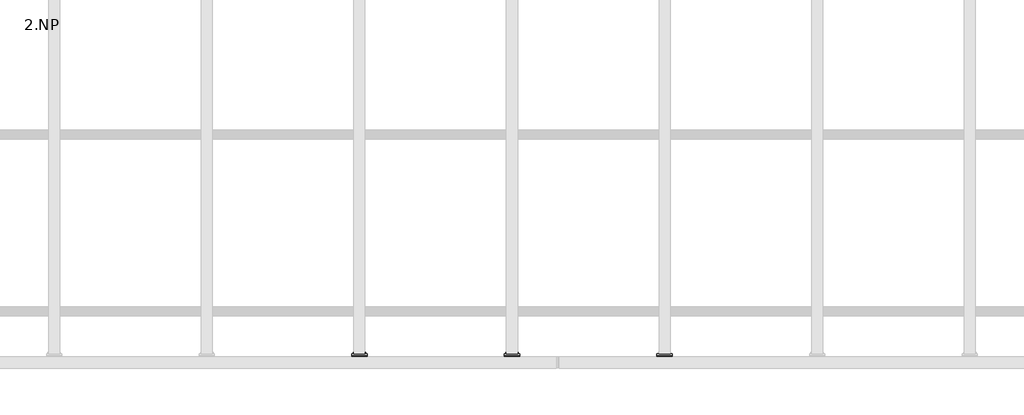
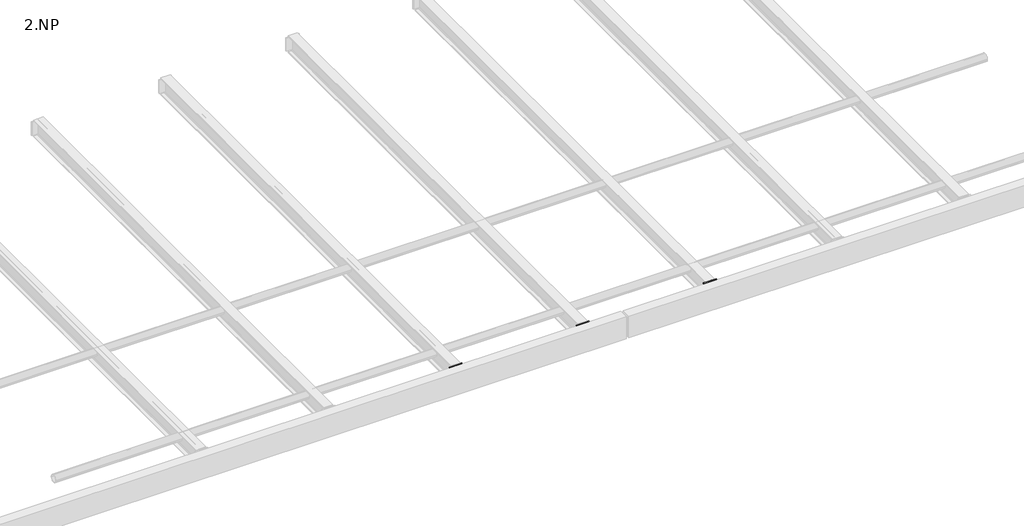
# One storey, part 5 of 18: 12 proxies.
"""IFC4 building model written with IfcOpenShell, lengths in millimetres."""

from ifc_helpers import new_model, si_unit, point, frame, frame_2d, origin, place, context, project, spatial, polyline, circle_curve, trimmed, segment, composite_curve, outline, extrude, element, save

model = new_model("IFC4")

# Units and contexts
model_context = context("Model", 3, world=origin())
ifc_project = project(units=[si_unit("LENGTHUNIT", "METRE", prefix="MILLI")], contexts=[model_context])

# Site, building, storey
site = spatial("IfcSite", under=ifc_project)
building = spatial("IfcBuilding", under=site)
storey = spatial("IfcBuildingStorey", under=building, Name="2.NP", Elevation=3000.0)

# Proxies
placement = place(None, origin())
element("IfcBuildingElementProxy", 1, Name="PLECH", ObjectType="PLECH", at=placement, inside=storey, context=model_context, shape_type="SweptSolid", body=[
    extrude(outline(polyline([(7000.0, -180.0), (7100.0, -180.0), (7100.0, -190.0), (7000.0, -190.0), (7000.0, -180.0)])), frame((0.0, 0.0, 3166.5), z_axis=(0.0, 0.0, 1.0), x_axis=(1.0, 0.0, 0.0)), (0.0, 0.0, 1.0), 127.0),
])
element("IfcBuildingElementProxy", 2, Name="PLECH", ObjectType="PLECH", at=placement, inside=storey, context=model_context, shape_type="SweptSolid", body=[
    extrude(outline(polyline([(8000.0, -180.0), (8100.0, -180.0), (8100.0, -190.0), (8000.0, -190.0), (8000.0, -180.0)])), frame((0.0, 0.0, 3166.5), z_axis=(0.0, 0.0, 1.0), x_axis=(1.0, 0.0, 0.0)), (0.0, 0.0, 1.0), 127.0),
])
element("IfcBuildingElementProxy", 3, Name="PLECH", ObjectType="PLECH", at=placement, inside=storey, context=model_context, shape_type="SweptSolid", body=[
    extrude(outline(polyline([(9000.0, -180.0), (9100.0, -180.0), (9100.0, -190.0), (9000.0, -190.0), (9000.0, -180.0)])), frame((0.0, 0.0, 3166.5), z_axis=(0.0, 0.0, 1.0), x_axis=(1.0, 0.0, 0.0)), (0.0, 0.0, 1.0), 127.0),
])
element("IfcBuildingElementProxy", 4, Name="PLECH", ObjectType="PLECH", at=placement, inside=storey, context=model_context, shape_type="SweptSolid", body=[
    extrude(outline(polyline([(7000.0, -190.0), (7100.0, -190.0), (7100.0, -200.0), (7000.0, -200.0), (7000.0, -190.0)])), frame((0.0, 0.0, 3127.5), z_axis=(0.0, 0.0, 1.0), x_axis=(1.0, 0.0, 0.0)), (0.0, 0.0, 1.0), 166.0000153),
])
element("IfcBuildingElementProxy", 5, Name="PLECH", ObjectType="PLECH", at=placement, inside=storey, context=model_context, shape_type="SweptSolid", body=[
    extrude(outline(composite_curve([segment(polyline([(-200.0, 3289.5), (-200.0, 3130.5), (-249.5, 3130.5)]), True, "CONTINUOUS"), segment(trimmed(circle_curve(frame_2d((-269.5, 3130.5)), 20.0), [point((-249.5, 3130.5))], [point((-269.5, 3150.5))], True, "CARTESIAN"), True, "CONTINUOUS"), segment(polyline([(-269.5, 3150.5), (-269.5, 3269.5)]), True, "CONTINUOUS"), segment(trimmed(circle_curve(frame_2d((-269.5, 3289.5)), 20.0), [point((-269.5, 3269.5))], [point((-249.5, 3289.5))], True, "CARTESIAN"), True, "CONTINUOUS"), segment(polyline([(-249.5, 3289.5), (-200.0, 3289.5)]), True, "CONTINUOUS")], self_intersect=False)), frame((7046.0, 0.0, 0.0), z_axis=(1.0, 0.0, 0.0), x_axis=(0.0, 1.0, 0.0)), (0.0, 0.0, 1.0), 8.0),
])
element("IfcBuildingElementProxy", 6, Name="PLECH", ObjectType="PLECH", at=placement, inside=storey, context=model_context, shape_type="SweptSolid", body=[
    extrude(outline(polyline([(8000.0, -190.0), (8100.0, -190.0), (8100.0, -200.0), (8000.0, -200.0), (8000.0, -190.0)])), frame((0.0, 0.0, 3127.5), z_axis=(0.0, 0.0, 1.0), x_axis=(1.0, 0.0, 0.0)), (0.0, 0.0, 1.0), 166.0000153),
])
element("IfcBuildingElementProxy", 7, Name="PLECH", ObjectType="PLECH", at=placement, inside=storey, context=model_context, shape_type="SweptSolid", body=[
    extrude(outline(composite_curve([segment(polyline([(-200.0, 3289.5), (-200.0, 3130.5), (-249.5, 3130.5)]), True, "CONTINUOUS"), segment(trimmed(circle_curve(frame_2d((-269.5, 3130.5)), 20.0), [point((-249.5, 3130.5))], [point((-269.5, 3150.5))], True, "CARTESIAN"), True, "CONTINUOUS"), segment(polyline([(-269.5, 3150.5), (-269.5, 3269.5)]), True, "CONTINUOUS"), segment(trimmed(circle_curve(frame_2d((-269.5, 3289.5)), 20.0), [point((-269.5, 3269.5))], [point((-249.5, 3289.5))], True, "CARTESIAN"), True, "CONTINUOUS"), segment(polyline([(-249.5, 3289.5), (-200.0, 3289.5)]), True, "CONTINUOUS")], self_intersect=False)), frame((8046.0, 0.0, 0.0), z_axis=(1.0, 0.0, 0.0), x_axis=(0.0, 1.0, 0.0)), (0.0, 0.0, 1.0), 8.0),
])
element("IfcBuildingElementProxy", 8, Name="PLECH", ObjectType="PLECH", at=placement, inside=storey, context=model_context, shape_type="SweptSolid", body=[
    extrude(outline(polyline([(9000.0, -190.0), (9100.0, -190.0), (9100.0, -200.0), (9000.0, -200.0), (9000.0, -190.0)])), frame((0.0, 0.0, 3127.5), z_axis=(0.0, 0.0, 1.0), x_axis=(1.0, 0.0, 0.0)), (0.0, 0.0, 1.0), 166.0000153),
])
element("IfcBuildingElementProxy", 9, Name="PLECH", ObjectType="PLECH", at=placement, inside=storey, context=model_context, shape_type="SweptSolid", body=[
    extrude(outline(composite_curve([segment(polyline([(-200.0, 3289.5), (-200.0, 3130.5), (-249.5, 3130.5)]), True, "CONTINUOUS"), segment(trimmed(circle_curve(frame_2d((-269.5, 3130.5)), 20.0), [point((-249.5, 3130.5))], [point((-269.5, 3150.5))], True, "CARTESIAN"), True, "CONTINUOUS"), segment(polyline([(-269.5, 3150.5), (-269.5, 3269.5)]), True, "CONTINUOUS"), segment(trimmed(circle_curve(frame_2d((-269.5, 3289.5)), 20.0), [point((-269.5, 3269.5))], [point((-249.5, 3289.5))], True, "CARTESIAN"), True, "CONTINUOUS"), segment(polyline([(-249.5, 3289.5), (-200.0, 3289.5)]), True, "CONTINUOUS")], self_intersect=False)), frame((9046.0, 0.0, 0.0), z_axis=(1.0, 0.0, 0.0), x_axis=(0.0, 1.0, 0.0)), (0.0, 0.0, 1.0), 8.0),
])
element("IfcBuildingElementProxy", 10, Name="Bolt assembly", ObjectType="Bolt assembly", at=placement, inside=storey, context=model_context, shape_type="SweptSolid", body=[
    extrude(outline(composite_curve([segment(trimmed(circle_curve(frame_2d((-234.5, 3170.0)), 9.0), [point((-225.5, 3170.0))], [point((-243.5, 3170.0))], False, "CARTESIAN"), True, "CONTINUOUS"), segment(trimmed(circle_curve(frame_2d((-234.5, 3170.0)), 9.0), [point((-243.5, 3170.0))], [point((-225.5, 3170.0))], False, "CARTESIAN"), True, "CONTINUOUS")], self_intersect=False)), frame((8349.9, 0.0, 0.0), z_axis=(1.0, 0.0, 0.0), x_axis=(0.0, 1.0, 0.0)), (0.0, 0.0, 1.0), 10.0),
    extrude(outline(polyline([(-220.6435935, 3170.0), (-227.5717968, 3158.0), (-241.4282032, 3158.0), (-248.3564065, 3170.0), (-241.4282032, 3182.0), (-227.5717968, 3182.0), (-220.6435935, 3170.0)])), frame((8363.0, 0.0, 0.0), z_axis=(1.0, 0.0, 0.0), x_axis=(0.0, 1.0, 0.0)), (0.0, 0.0, 1.0), 10.0),
    extrude(outline(composite_curve([segment(trimmed(circle_curve(frame_2d((-234.5, 3170.0)), 8.0), [point((-226.5, 3170.0))], [point((-242.5, 3170.0))], False, "CARTESIAN"), True, "CONTINUOUS"), segment(trimmed(circle_curve(frame_2d((-234.5, 3170.0)), 8.0), [point((-242.5, 3170.0))], [point((-226.5, 3170.0))], False, "CARTESIAN"), True, "CONTINUOUS")], self_intersect=False)), frame((8313.0, 0.0, 0.0), z_axis=(1.0, 0.0, 0.0), x_axis=(0.0, 1.0, 0.0)), (0.0, 0.0, 1.0), 50.0),
    extrude(outline(composite_curve([segment(trimmed(circle_curve(frame_2d((-234.5, 3170.0)), 15.0), [point((-219.5, 3170.0))], [point((-249.5, 3170.0))], False, "CARTESIAN"), True, "CONTINUOUS"), segment(trimmed(circle_curve(frame_2d((-234.5, 3170.0)), 15.0), [point((-249.5, 3170.0))], [point((-219.5, 3170.0))], False, "CARTESIAN"), True, "CONTINUOUS")], self_intersect=False)), frame((8360.0, 0.0, 0.0), z_axis=(1.0, 0.0, 0.0), x_axis=(0.0, 1.0, 0.0)), (0.0, 0.0, 1.0), 3.0),
    extrude(outline(composite_curve([segment(trimmed(circle_curve(frame_2d((-234.5, 3170.0)), 15.0), [point((-219.5, 3170.0))], [point((-249.5, 3170.0))], False, "CARTESIAN"), True, "CONTINUOUS"), segment(trimmed(circle_curve(frame_2d((-234.5, 3170.0)), 15.0), [point((-249.5, 3170.0))], [point((-219.5, 3170.0))], False, "CARTESIAN"), True, "CONTINUOUS")], self_intersect=False)), frame((8337.0, 0.0, 0.0), z_axis=(1.0, 0.0, 0.0), x_axis=(0.0, 1.0, 0.0)), (0.0, 0.0, 1.0), 3.0),
    extrude(outline(polyline([(-219.0558803, 3170.0), (-226.7779401, 3156.625), (-242.2220599, 3156.625), (-249.9441197, 3170.0), (-242.2220599, 3183.375), (-226.7779401, 3183.375), (-219.0558803, 3170.0)])), frame((8324.0, 0.0, 0.0), z_axis=(1.0, 0.0, 0.0), x_axis=(0.0, 1.0, 0.0)), (0.0, 0.0, 1.0), 13.0),
    extrude(outline(composite_curve([segment(trimmed(circle_curve(frame_2d((-234.5, 3170.0)), 9.0), [point((-225.5, 3170.0))], [point((-243.5, 3170.0))], False, "CARTESIAN"), True, "CONTINUOUS"), segment(trimmed(circle_curve(frame_2d((-234.5, 3170.0)), 9.0), [point((-243.5, 3170.0))], [point((-225.5, 3170.0))], False, "CARTESIAN"), True, "CONTINUOUS")], self_intersect=False)), frame((8340.0, 0.0, 0.0), z_axis=(1.0, 0.0, 0.0), x_axis=(0.0, 1.0, 0.0)), (0.0, 0.0, 1.0), 10.1),
    extrude(outline(composite_curve([segment(trimmed(circle_curve(frame_2d((-234.5, 3250.0)), 9.0), [point((-225.5, 3250.0))], [point((-243.5, 3250.0))], False, "CARTESIAN"), True, "CONTINUOUS"), segment(trimmed(circle_curve(frame_2d((-234.5, 3250.0)), 9.0), [point((-243.5, 3250.0))], [point((-225.5, 3250.0))], False, "CARTESIAN"), True, "CONTINUOUS")], self_intersect=False)), frame((8349.9, 0.0, 0.0), z_axis=(1.0, 0.0, 0.0), x_axis=(0.0, 1.0, 0.0)), (0.0, 0.0, 1.0), 10.0),
    extrude(outline(polyline([(-220.6435935, 3250.0), (-227.5717968, 3238.0), (-241.4282032, 3238.0), (-248.3564065, 3250.0), (-241.4282032, 3262.0), (-227.5717968, 3262.0), (-220.6435935, 3250.0)])), frame((8363.0, 0.0, 0.0), z_axis=(1.0, 0.0, 0.0), x_axis=(0.0, 1.0, 0.0)), (0.0, 0.0, 1.0), 10.0),
    extrude(outline(composite_curve([segment(trimmed(circle_curve(frame_2d((-234.5, 3250.0)), 8.0), [point((-226.5, 3250.0))], [point((-242.5, 3250.0))], False, "CARTESIAN"), True, "CONTINUOUS"), segment(trimmed(circle_curve(frame_2d((-234.5, 3250.0)), 8.0), [point((-242.5, 3250.0))], [point((-226.5, 3250.0))], False, "CARTESIAN"), True, "CONTINUOUS")], self_intersect=False)), frame((8313.0, 0.0, 0.0), z_axis=(1.0, 0.0, 0.0), x_axis=(0.0, 1.0, 0.0)), (0.0, 0.0, 1.0), 50.0),
    extrude(outline(composite_curve([segment(trimmed(circle_curve(frame_2d((-234.5, 3250.0)), 15.0), [point((-219.5, 3250.0))], [point((-249.5, 3250.0))], False, "CARTESIAN"), True, "CONTINUOUS"), segment(trimmed(circle_curve(frame_2d((-234.5, 3250.0)), 15.0), [point((-249.5, 3250.0))], [point((-219.5, 3250.0))], False, "CARTESIAN"), True, "CONTINUOUS")], self_intersect=False)), frame((8360.0, 0.0, 0.0), z_axis=(1.0, 0.0, 0.0), x_axis=(0.0, 1.0, 0.0)), (0.0, 0.0, 1.0), 3.0),
    extrude(outline(composite_curve([segment(trimmed(circle_curve(frame_2d((-234.5, 3250.0)), 15.0), [point((-219.5, 3250.0))], [point((-249.5, 3250.0))], False, "CARTESIAN"), True, "CONTINUOUS"), segment(trimmed(circle_curve(frame_2d((-234.5, 3250.0)), 15.0), [point((-249.5, 3250.0))], [point((-219.5, 3250.0))], False, "CARTESIAN"), True, "CONTINUOUS")], self_intersect=False)), frame((8337.0, 0.0, 0.0), z_axis=(1.0, 0.0, 0.0), x_axis=(0.0, 1.0, 0.0)), (0.0, 0.0, 1.0), 3.0),
    extrude(outline(polyline([(-219.0558803, 3250.0), (-226.7779401, 3236.625), (-242.2220599, 3236.625), (-249.9441197, 3250.0), (-242.2220599, 3263.375), (-226.7779401, 3263.375), (-219.0558803, 3250.0)])), frame((8324.0, 0.0, 0.0), z_axis=(1.0, 0.0, 0.0), x_axis=(0.0, 1.0, 0.0)), (0.0, 0.0, 1.0), 13.0),
    extrude(outline(composite_curve([segment(trimmed(circle_curve(frame_2d((-234.5, 3250.0)), 9.0), [point((-225.5, 3250.0))], [point((-243.5, 3250.0))], False, "CARTESIAN"), True, "CONTINUOUS"), segment(trimmed(circle_curve(frame_2d((-234.5, 3250.0)), 9.0), [point((-243.5, 3250.0))], [point((-225.5, 3250.0))], False, "CARTESIAN"), True, "CONTINUOUS")], self_intersect=False)), frame((8340.0, 0.0, 0.0), z_axis=(1.0, 0.0, 0.0), x_axis=(0.0, 1.0, 0.0)), (0.0, 0.0, 1.0), 10.1),
])
element("IfcBuildingElementProxy", 11, Name="Bolt assembly", ObjectType="Bolt assembly", at=placement, inside=storey, context=model_context, shape_type="SweptSolid", body=[
    extrude(outline(composite_curve([segment(trimmed(circle_curve(frame_2d((3260.0, 7020.0)), 6.5), [point((3260.0, 7026.5))], [point((3260.0, 7013.5))], False, "CARTESIAN"), True, "CONTINUOUS"), segment(trimmed(circle_curve(frame_2d((3260.0, 7020.0)), 6.5), [point((3260.0, 7013.5))], [point((3260.0, 7026.5))], False, "CARTESIAN"), True, "CONTINUOUS")], self_intersect=False)), frame((0.0, -199.9, 0.0), z_axis=(0.0, 1.0, 0.0), x_axis=(0.0, 0.0, 1.0)), (0.0, 0.0, 1.0), 10.0),
    extrude(outline(polyline([(3260.0, 7030.9696551), (3269.5, 7025.4848276), (3269.5, 7014.5151724), (3260.0, 7009.0303449), (3250.5, 7014.5151724), (3250.5, 7025.4848276), (3260.0, 7030.9696551)])), frame((0.0, -210.0, 0.0), z_axis=(0.0, 1.0, 0.0), x_axis=(0.0, 0.0, 1.0)), (0.0, 0.0, 1.0), 7.5),
    extrude(outline(composite_curve([segment(trimmed(circle_curve(frame_2d((3260.0, 7020.0)), 6.0), [point((3260.0, 7026.0))], [point((3260.0, 7014.0))], False, "CARTESIAN"), True, "CONTINUOUS"), segment(trimmed(circle_curve(frame_2d((3260.0, 7020.0)), 6.0), [point((3260.0, 7014.0))], [point((3260.0, 7026.0))], False, "CARTESIAN"), True, "CONTINUOUS")], self_intersect=False)), frame((0.0, -202.5, 0.0), z_axis=(0.0, 1.0, 0.0), x_axis=(0.0, 0.0, 1.0)), (0.0, 0.0, 1.0), 40.0),
    extrude(outline(composite_curve([segment(trimmed(circle_curve(frame_2d((3260.0, 7020.0)), 12.0), [point((3260.0, 7032.0))], [point((3260.0, 7008.0))], False, "CARTESIAN"), True, "CONTINUOUS"), segment(trimmed(circle_curve(frame_2d((3260.0, 7020.0)), 12.0), [point((3260.0, 7008.0))], [point((3260.0, 7032.0))], False, "CARTESIAN"), True, "CONTINUOUS")], self_intersect=False)), frame((0.0, -202.5, 0.0), z_axis=(0.0, 1.0, 0.0), x_axis=(0.0, 0.0, 1.0)), (0.0, 0.0, 1.0), 2.5),
    extrude(outline(composite_curve([segment(trimmed(circle_curve(frame_2d((3260.0, 7020.0)), 12.0), [point((3260.0, 7032.0))], [point((3260.0, 7008.0))], False, "CARTESIAN"), True, "CONTINUOUS"), segment(trimmed(circle_curve(frame_2d((3260.0, 7020.0)), 12.0), [point((3260.0, 7008.0))], [point((3260.0, 7032.0))], False, "CARTESIAN"), True, "CONTINUOUS")], self_intersect=False)), frame((0.0, -180.0, 0.0), z_axis=(0.0, 1.0, 0.0), x_axis=(0.0, 0.0, 1.0)), (0.0, 0.0, 1.0), 2.5),
    extrude(outline(polyline([(3260.0, 7030.9696551), (3269.5, 7025.4848276), (3269.5, 7014.5151724), (3260.0, 7009.0303449), (3250.5, 7014.5151724), (3250.5, 7025.4848276), (3260.0, 7030.9696551)])), frame((0.0, -177.5, 0.0), z_axis=(0.0, 1.0, 0.0), x_axis=(0.0, 0.0, 1.0)), (0.0, 0.0, 1.0), 10.0),
    extrude(outline(composite_curve([segment(trimmed(circle_curve(frame_2d((3260.0, 7020.0)), 6.5), [point((3260.0, 7026.5))], [point((3260.0, 7013.5))], False, "CARTESIAN"), True, "CONTINUOUS"), segment(trimmed(circle_curve(frame_2d((3260.0, 7020.0)), 6.5), [point((3260.0, 7013.5))], [point((3260.0, 7026.5))], False, "CARTESIAN"), True, "CONTINUOUS")], self_intersect=False)), frame((0.0, -190.1, 0.0), z_axis=(0.0, 1.0, 0.0), x_axis=(0.0, 0.0, 1.0)), (0.0, 0.0, 1.0), 10.1),
    extrude(outline(composite_curve([segment(trimmed(circle_curve(frame_2d((3260.0, 7080.0)), 6.5), [point((3260.0, 7086.5))], [point((3260.0, 7073.5))], False, "CARTESIAN"), True, "CONTINUOUS"), segment(trimmed(circle_curve(frame_2d((3260.0, 7080.0)), 6.5), [point((3260.0, 7073.5))], [point((3260.0, 7086.5))], False, "CARTESIAN"), True, "CONTINUOUS")], self_intersect=False)), frame((0.0, -199.9, 0.0), z_axis=(0.0, 1.0, 0.0), x_axis=(0.0, 0.0, 1.0)), (0.0, 0.0, 1.0), 10.0),
    extrude(outline(polyline([(3260.0, 7090.9696551), (3269.5, 7085.4848276), (3269.5, 7074.5151724), (3260.0, 7069.0303449), (3250.5, 7074.5151724), (3250.5, 7085.4848276), (3260.0, 7090.9696551)])), frame((0.0, -210.0, 0.0), z_axis=(0.0, 1.0, 0.0), x_axis=(0.0, 0.0, 1.0)), (0.0, 0.0, 1.0), 7.5),
    extrude(outline(composite_curve([segment(trimmed(circle_curve(frame_2d((3260.0, 7080.0)), 6.0), [point((3260.0, 7086.0))], [point((3260.0, 7074.0))], False, "CARTESIAN"), True, "CONTINUOUS"), segment(trimmed(circle_curve(frame_2d((3260.0, 7080.0)), 6.0), [point((3260.0, 7074.0))], [point((3260.0, 7086.0))], False, "CARTESIAN"), True, "CONTINUOUS")], self_intersect=False)), frame((0.0, -202.5, 0.0), z_axis=(0.0, 1.0, 0.0), x_axis=(0.0, 0.0, 1.0)), (0.0, 0.0, 1.0), 40.0),
    extrude(outline(composite_curve([segment(trimmed(circle_curve(frame_2d((3260.0, 7080.0)), 12.0), [point((3260.0, 7092.0))], [point((3260.0, 7068.0))], False, "CARTESIAN"), True, "CONTINUOUS"), segment(trimmed(circle_curve(frame_2d((3260.0, 7080.0)), 12.0), [point((3260.0, 7068.0))], [point((3260.0, 7092.0))], False, "CARTESIAN"), True, "CONTINUOUS")], self_intersect=False)), frame((0.0, -202.5, 0.0), z_axis=(0.0, 1.0, 0.0), x_axis=(0.0, 0.0, 1.0)), (0.0, 0.0, 1.0), 2.5),
    extrude(outline(composite_curve([segment(trimmed(circle_curve(frame_2d((3260.0, 7080.0)), 12.0), [point((3260.0, 7092.0))], [point((3260.0, 7068.0))], False, "CARTESIAN"), True, "CONTINUOUS"), segment(trimmed(circle_curve(frame_2d((3260.0, 7080.0)), 12.0), [point((3260.0, 7068.0))], [point((3260.0, 7092.0))], False, "CARTESIAN"), True, "CONTINUOUS")], self_intersect=False)), frame((0.0, -180.0, 0.0), z_axis=(0.0, 1.0, 0.0), x_axis=(0.0, 0.0, 1.0)), (0.0, 0.0, 1.0), 2.5),
    extrude(outline(polyline([(3260.0, 7090.9696551), (3269.5, 7085.4848276), (3269.5, 7074.5151724), (3260.0, 7069.0303449), (3250.5, 7074.5151724), (3250.5, 7085.4848276), (3260.0, 7090.9696551)])), frame((0.0, -177.5, 0.0), z_axis=(0.0, 1.0, 0.0), x_axis=(0.0, 0.0, 1.0)), (0.0, 0.0, 1.0), 10.0),
    extrude(outline(composite_curve([segment(trimmed(circle_curve(frame_2d((3260.0, 7080.0)), 6.5), [point((3260.0, 7086.5))], [point((3260.0, 7073.5))], False, "CARTESIAN"), True, "CONTINUOUS"), segment(trimmed(circle_curve(frame_2d((3260.0, 7080.0)), 6.5), [point((3260.0, 7073.5))], [point((3260.0, 7086.5))], False, "CARTESIAN"), True, "CONTINUOUS")], self_intersect=False)), frame((0.0, -190.1, 0.0), z_axis=(0.0, 1.0, 0.0), x_axis=(0.0, 0.0, 1.0)), (0.0, 0.0, 1.0), 10.1),
    extrude(outline(composite_curve([segment(trimmed(circle_curve(frame_2d((3200.0, 7020.0)), 6.5), [point((3200.0, 7026.5))], [point((3200.0, 7013.5))], False, "CARTESIAN"), True, "CONTINUOUS"), segment(trimmed(circle_curve(frame_2d((3200.0, 7020.0)), 6.5), [point((3200.0, 7013.5))], [point((3200.0, 7026.5))], False, "CARTESIAN"), True, "CONTINUOUS")], self_intersect=False)), frame((0.0, -199.9, 0.0), z_axis=(0.0, 1.0, 0.0), x_axis=(0.0, 0.0, 1.0)), (0.0, 0.0, 1.0), 10.0),
    extrude(outline(polyline([(3200.0, 7030.9696551), (3209.5, 7025.4848276), (3209.5, 7014.5151724), (3200.0, 7009.0303449), (3190.5, 7014.5151724), (3190.5, 7025.4848276), (3200.0, 7030.9696551)])), frame((0.0, -210.0, 0.0), z_axis=(0.0, 1.0, 0.0), x_axis=(0.0, 0.0, 1.0)), (0.0, 0.0, 1.0), 7.5),
    extrude(outline(composite_curve([segment(trimmed(circle_curve(frame_2d((3200.0, 7020.0)), 6.0), [point((3200.0, 7026.0))], [point((3200.0, 7014.0))], False, "CARTESIAN"), True, "CONTINUOUS"), segment(trimmed(circle_curve(frame_2d((3200.0, 7020.0)), 6.0), [point((3200.0, 7014.0))], [point((3200.0, 7026.0))], False, "CARTESIAN"), True, "CONTINUOUS")], self_intersect=False)), frame((0.0, -202.5, 0.0), z_axis=(0.0, 1.0, 0.0), x_axis=(0.0, 0.0, 1.0)), (0.0, 0.0, 1.0), 40.0),
    extrude(outline(composite_curve([segment(trimmed(circle_curve(frame_2d((3200.0, 7020.0)), 12.0), [point((3200.0, 7032.0))], [point((3200.0, 7008.0))], False, "CARTESIAN"), True, "CONTINUOUS"), segment(trimmed(circle_curve(frame_2d((3200.0, 7020.0)), 12.0), [point((3200.0, 7008.0))], [point((3200.0, 7032.0))], False, "CARTESIAN"), True, "CONTINUOUS")], self_intersect=False)), frame((0.0, -202.5, 0.0), z_axis=(0.0, 1.0, 0.0), x_axis=(0.0, 0.0, 1.0)), (0.0, 0.0, 1.0), 2.5),
    extrude(outline(composite_curve([segment(trimmed(circle_curve(frame_2d((3200.0, 7020.0)), 12.0), [point((3200.0, 7032.0))], [point((3200.0, 7008.0))], False, "CARTESIAN"), True, "CONTINUOUS"), segment(trimmed(circle_curve(frame_2d((3200.0, 7020.0)), 12.0), [point((3200.0, 7008.0))], [point((3200.0, 7032.0))], False, "CARTESIAN"), True, "CONTINUOUS")], self_intersect=False)), frame((0.0, -180.0, 0.0), z_axis=(0.0, 1.0, 0.0), x_axis=(0.0, 0.0, 1.0)), (0.0, 0.0, 1.0), 2.5),
    extrude(outline(polyline([(3200.0, 7030.9696551), (3209.5, 7025.4848276), (3209.5, 7014.5151724), (3200.0, 7009.0303449), (3190.5, 7014.5151724), (3190.5, 7025.4848276), (3200.0, 7030.9696551)])), frame((0.0, -177.5, 0.0), z_axis=(0.0, 1.0, 0.0), x_axis=(0.0, 0.0, 1.0)), (0.0, 0.0, 1.0), 10.0),
    extrude(outline(composite_curve([segment(trimmed(circle_curve(frame_2d((3200.0, 7020.0)), 6.5), [point((3200.0, 7026.5))], [point((3200.0, 7013.5))], False, "CARTESIAN"), True, "CONTINUOUS"), segment(trimmed(circle_curve(frame_2d((3200.0, 7020.0)), 6.5), [point((3200.0, 7013.5))], [point((3200.0, 7026.5))], False, "CARTESIAN"), True, "CONTINUOUS")], self_intersect=False)), frame((0.0, -190.1, 0.0), z_axis=(0.0, 1.0, 0.0), x_axis=(0.0, 0.0, 1.0)), (0.0, 0.0, 1.0), 10.1),
    extrude(outline(composite_curve([segment(trimmed(circle_curve(frame_2d((3200.0, 7080.0)), 6.5), [point((3200.0, 7086.5))], [point((3200.0, 7073.5))], False, "CARTESIAN"), True, "CONTINUOUS"), segment(trimmed(circle_curve(frame_2d((3200.0, 7080.0)), 6.5), [point((3200.0, 7073.5))], [point((3200.0, 7086.5))], False, "CARTESIAN"), True, "CONTINUOUS")], self_intersect=False)), frame((0.0, -199.9, 0.0), z_axis=(0.0, 1.0, 0.0), x_axis=(0.0, 0.0, 1.0)), (0.0, 0.0, 1.0), 10.0),
    extrude(outline(polyline([(3200.0, 7090.9696551), (3209.5, 7085.4848276), (3209.5, 7074.5151724), (3200.0, 7069.0303449), (3190.5, 7074.5151724), (3190.5, 7085.4848276), (3200.0, 7090.9696551)])), frame((0.0, -210.0, 0.0), z_axis=(0.0, 1.0, 0.0), x_axis=(0.0, 0.0, 1.0)), (0.0, 0.0, 1.0), 7.5),
    extrude(outline(composite_curve([segment(trimmed(circle_curve(frame_2d((3200.0, 7080.0)), 6.0), [point((3200.0, 7086.0))], [point((3200.0, 7074.0))], False, "CARTESIAN"), True, "CONTINUOUS"), segment(trimmed(circle_curve(frame_2d((3200.0, 7080.0)), 6.0), [point((3200.0, 7074.0))], [point((3200.0, 7086.0))], False, "CARTESIAN"), True, "CONTINUOUS")], self_intersect=False)), frame((0.0, -202.5, 0.0), z_axis=(0.0, 1.0, 0.0), x_axis=(0.0, 0.0, 1.0)), (0.0, 0.0, 1.0), 40.0),
    extrude(outline(composite_curve([segment(trimmed(circle_curve(frame_2d((3200.0, 7080.0)), 12.0), [point((3200.0, 7092.0))], [point((3200.0, 7068.0))], False, "CARTESIAN"), True, "CONTINUOUS"), segment(trimmed(circle_curve(frame_2d((3200.0, 7080.0)), 12.0), [point((3200.0, 7068.0))], [point((3200.0, 7092.0))], False, "CARTESIAN"), True, "CONTINUOUS")], self_intersect=False)), frame((0.0, -202.5, 0.0), z_axis=(0.0, 1.0, 0.0), x_axis=(0.0, 0.0, 1.0)), (0.0, 0.0, 1.0), 2.5),
    extrude(outline(composite_curve([segment(trimmed(circle_curve(frame_2d((3200.0, 7080.0)), 12.0), [point((3200.0, 7092.0))], [point((3200.0, 7068.0))], False, "CARTESIAN"), True, "CONTINUOUS"), segment(trimmed(circle_curve(frame_2d((3200.0, 7080.0)), 12.0), [point((3200.0, 7068.0))], [point((3200.0, 7092.0))], False, "CARTESIAN"), True, "CONTINUOUS")], self_intersect=False)), frame((0.0, -180.0, 0.0), z_axis=(0.0, 1.0, 0.0), x_axis=(0.0, 0.0, 1.0)), (0.0, 0.0, 1.0), 2.5),
    extrude(outline(polyline([(3200.0, 7090.9696551), (3209.5, 7085.4848276), (3209.5, 7074.5151724), (3200.0, 7069.0303449), (3190.5, 7074.5151724), (3190.5, 7085.4848276), (3200.0, 7090.9696551)])), frame((0.0, -177.5, 0.0), z_axis=(0.0, 1.0, 0.0), x_axis=(0.0, 0.0, 1.0)), (0.0, 0.0, 1.0), 10.0),
    extrude(outline(composite_curve([segment(trimmed(circle_curve(frame_2d((3200.0, 7080.0)), 6.5), [point((3200.0, 7086.5))], [point((3200.0, 7073.5))], False, "CARTESIAN"), True, "CONTINUOUS"), segment(trimmed(circle_curve(frame_2d((3200.0, 7080.0)), 6.5), [point((3200.0, 7073.5))], [point((3200.0, 7086.5))], False, "CARTESIAN"), True, "CONTINUOUS")], self_intersect=False)), frame((0.0, -190.1, 0.0), z_axis=(0.0, 1.0, 0.0), x_axis=(0.0, 0.0, 1.0)), (0.0, 0.0, 1.0), 10.1),
])
element("IfcBuildingElementProxy", 12, Name="Bolt assembly", ObjectType="Bolt assembly", at=placement, inside=storey, context=model_context, shape_type="SweptSolid", body=[
    extrude(outline(composite_curve([segment(trimmed(circle_curve(frame_2d((3260.0, 8020.0)), 6.5), [point((3260.0, 8026.5))], [point((3260.0, 8013.5))], False, "CARTESIAN"), True, "CONTINUOUS"), segment(trimmed(circle_curve(frame_2d((3260.0, 8020.0)), 6.5), [point((3260.0, 8013.5))], [point((3260.0, 8026.5))], False, "CARTESIAN"), True, "CONTINUOUS")], self_intersect=False)), frame((0.0, -199.9, 0.0), z_axis=(0.0, 1.0, 0.0), x_axis=(0.0, 0.0, 1.0)), (0.0, 0.0, 1.0), 10.0),
    extrude(outline(polyline([(3260.0, 8030.9696551), (3269.5, 8025.4848276), (3269.5, 8014.5151724), (3260.0, 8009.0303449), (3250.5, 8014.5151724), (3250.5, 8025.4848276), (3260.0, 8030.9696551)])), frame((0.0, -210.0, 0.0), z_axis=(0.0, 1.0, 0.0), x_axis=(0.0, 0.0, 1.0)), (0.0, 0.0, 1.0), 7.5),
    extrude(outline(composite_curve([segment(trimmed(circle_curve(frame_2d((3260.0, 8020.0)), 6.0), [point((3260.0, 8026.0))], [point((3260.0, 8014.0))], False, "CARTESIAN"), True, "CONTINUOUS"), segment(trimmed(circle_curve(frame_2d((3260.0, 8020.0)), 6.0), [point((3260.0, 8014.0))], [point((3260.0, 8026.0))], False, "CARTESIAN"), True, "CONTINUOUS")], self_intersect=False)), frame((0.0, -202.5, 0.0), z_axis=(0.0, 1.0, 0.0), x_axis=(0.0, 0.0, 1.0)), (0.0, 0.0, 1.0), 40.0),
    extrude(outline(composite_curve([segment(trimmed(circle_curve(frame_2d((3260.0, 8020.0)), 12.0), [point((3260.0, 8032.0))], [point((3260.0, 8008.0))], False, "CARTESIAN"), True, "CONTINUOUS"), segment(trimmed(circle_curve(frame_2d((3260.0, 8020.0)), 12.0), [point((3260.0, 8008.0))], [point((3260.0, 8032.0))], False, "CARTESIAN"), True, "CONTINUOUS")], self_intersect=False)), frame((0.0, -202.5, 0.0), z_axis=(0.0, 1.0, 0.0), x_axis=(0.0, 0.0, 1.0)), (0.0, 0.0, 1.0), 2.5),
    extrude(outline(composite_curve([segment(trimmed(circle_curve(frame_2d((3260.0, 8020.0)), 12.0), [point((3260.0, 8032.0))], [point((3260.0, 8008.0))], False, "CARTESIAN"), True, "CONTINUOUS"), segment(trimmed(circle_curve(frame_2d((3260.0, 8020.0)), 12.0), [point((3260.0, 8008.0))], [point((3260.0, 8032.0))], False, "CARTESIAN"), True, "CONTINUOUS")], self_intersect=False)), frame((0.0, -180.0, 0.0), z_axis=(0.0, 1.0, 0.0), x_axis=(0.0, 0.0, 1.0)), (0.0, 0.0, 1.0), 2.5),
    extrude(outline(polyline([(3260.0, 8030.9696551), (3269.5, 8025.4848276), (3269.5, 8014.5151724), (3260.0, 8009.0303449), (3250.5, 8014.5151724), (3250.5, 8025.4848276), (3260.0, 8030.9696551)])), frame((0.0, -177.5, 0.0), z_axis=(0.0, 1.0, 0.0), x_axis=(0.0, 0.0, 1.0)), (0.0, 0.0, 1.0), 10.0),
    extrude(outline(composite_curve([segment(trimmed(circle_curve(frame_2d((3260.0, 8020.0)), 6.5), [point((3260.0, 8026.5))], [point((3260.0, 8013.5))], False, "CARTESIAN"), True, "CONTINUOUS"), segment(trimmed(circle_curve(frame_2d((3260.0, 8020.0)), 6.5), [point((3260.0, 8013.5))], [point((3260.0, 8026.5))], False, "CARTESIAN"), True, "CONTINUOUS")], self_intersect=False)), frame((0.0, -190.1, 0.0), z_axis=(0.0, 1.0, 0.0), x_axis=(0.0, 0.0, 1.0)), (0.0, 0.0, 1.0), 10.1),
    extrude(outline(composite_curve([segment(trimmed(circle_curve(frame_2d((3260.0, 8080.0)), 6.5), [point((3260.0, 8086.5))], [point((3260.0, 8073.5))], False, "CARTESIAN"), True, "CONTINUOUS"), segment(trimmed(circle_curve(frame_2d((3260.0, 8080.0)), 6.5), [point((3260.0, 8073.5))], [point((3260.0, 8086.5))], False, "CARTESIAN"), True, "CONTINUOUS")], self_intersect=False)), frame((0.0, -199.9, 0.0), z_axis=(0.0, 1.0, 0.0), x_axis=(0.0, 0.0, 1.0)), (0.0, 0.0, 1.0), 10.0),
    extrude(outline(polyline([(3260.0, 8090.9696551), (3269.5, 8085.4848276), (3269.5, 8074.5151724), (3260.0, 8069.0303449), (3250.5, 8074.5151724), (3250.5, 8085.4848276), (3260.0, 8090.9696551)])), frame((0.0, -210.0, 0.0), z_axis=(0.0, 1.0, 0.0), x_axis=(0.0, 0.0, 1.0)), (0.0, 0.0, 1.0), 7.5),
    extrude(outline(composite_curve([segment(trimmed(circle_curve(frame_2d((3260.0, 8080.0)), 6.0), [point((3260.0, 8086.0))], [point((3260.0, 8074.0))], False, "CARTESIAN"), True, "CONTINUOUS"), segment(trimmed(circle_curve(frame_2d((3260.0, 8080.0)), 6.0), [point((3260.0, 8074.0))], [point((3260.0, 8086.0))], False, "CARTESIAN"), True, "CONTINUOUS")], self_intersect=False)), frame((0.0, -202.5, 0.0), z_axis=(0.0, 1.0, 0.0), x_axis=(0.0, 0.0, 1.0)), (0.0, 0.0, 1.0), 40.0),
    extrude(outline(composite_curve([segment(trimmed(circle_curve(frame_2d((3260.0, 8080.0)), 12.0), [point((3260.0, 8092.0))], [point((3260.0, 8068.0))], False, "CARTESIAN"), True, "CONTINUOUS"), segment(trimmed(circle_curve(frame_2d((3260.0, 8080.0)), 12.0), [point((3260.0, 8068.0))], [point((3260.0, 8092.0))], False, "CARTESIAN"), True, "CONTINUOUS")], self_intersect=False)), frame((0.0, -202.5, 0.0), z_axis=(0.0, 1.0, 0.0), x_axis=(0.0, 0.0, 1.0)), (0.0, 0.0, 1.0), 2.5),
    extrude(outline(composite_curve([segment(trimmed(circle_curve(frame_2d((3260.0, 8080.0)), 12.0), [point((3260.0, 8092.0))], [point((3260.0, 8068.0))], False, "CARTESIAN"), True, "CONTINUOUS"), segment(trimmed(circle_curve(frame_2d((3260.0, 8080.0)), 12.0), [point((3260.0, 8068.0))], [point((3260.0, 8092.0))], False, "CARTESIAN"), True, "CONTINUOUS")], self_intersect=False)), frame((0.0, -180.0, 0.0), z_axis=(0.0, 1.0, 0.0), x_axis=(0.0, 0.0, 1.0)), (0.0, 0.0, 1.0), 2.5),
    extrude(outline(polyline([(3260.0, 8090.9696551), (3269.5, 8085.4848276), (3269.5, 8074.5151724), (3260.0, 8069.0303449), (3250.5, 8074.5151724), (3250.5, 8085.4848276), (3260.0, 8090.9696551)])), frame((0.0, -177.5, 0.0), z_axis=(0.0, 1.0, 0.0), x_axis=(0.0, 0.0, 1.0)), (0.0, 0.0, 1.0), 10.0),
    extrude(outline(composite_curve([segment(trimmed(circle_curve(frame_2d((3260.0, 8080.0)), 6.5), [point((3260.0, 8086.5))], [point((3260.0, 8073.5))], False, "CARTESIAN"), True, "CONTINUOUS"), segment(trimmed(circle_curve(frame_2d((3260.0, 8080.0)), 6.5), [point((3260.0, 8073.5))], [point((3260.0, 8086.5))], False, "CARTESIAN"), True, "CONTINUOUS")], self_intersect=False)), frame((0.0, -190.1, 0.0), z_axis=(0.0, 1.0, 0.0), x_axis=(0.0, 0.0, 1.0)), (0.0, 0.0, 1.0), 10.1),
    extrude(outline(composite_curve([segment(trimmed(circle_curve(frame_2d((3200.0, 8020.0)), 6.5), [point((3200.0, 8026.5))], [point((3200.0, 8013.5))], False, "CARTESIAN"), True, "CONTINUOUS"), segment(trimmed(circle_curve(frame_2d((3200.0, 8020.0)), 6.5), [point((3200.0, 8013.5))], [point((3200.0, 8026.5))], False, "CARTESIAN"), True, "CONTINUOUS")], self_intersect=False)), frame((0.0, -199.9, 0.0), z_axis=(0.0, 1.0, 0.0), x_axis=(0.0, 0.0, 1.0)), (0.0, 0.0, 1.0), 10.0),
    extrude(outline(polyline([(3200.0, 8030.9696551), (3209.5, 8025.4848276), (3209.5, 8014.5151724), (3200.0, 8009.0303449), (3190.5, 8014.5151724), (3190.5, 8025.4848276), (3200.0, 8030.9696551)])), frame((0.0, -210.0, 0.0), z_axis=(0.0, 1.0, 0.0), x_axis=(0.0, 0.0, 1.0)), (0.0, 0.0, 1.0), 7.5),
    extrude(outline(composite_curve([segment(trimmed(circle_curve(frame_2d((3200.0, 8020.0)), 6.0), [point((3200.0, 8026.0))], [point((3200.0, 8014.0))], False, "CARTESIAN"), True, "CONTINUOUS"), segment(trimmed(circle_curve(frame_2d((3200.0, 8020.0)), 6.0), [point((3200.0, 8014.0))], [point((3200.0, 8026.0))], False, "CARTESIAN"), True, "CONTINUOUS")], self_intersect=False)), frame((0.0, -202.5, 0.0), z_axis=(0.0, 1.0, 0.0), x_axis=(0.0, 0.0, 1.0)), (0.0, 0.0, 1.0), 40.0),
    extrude(outline(composite_curve([segment(trimmed(circle_curve(frame_2d((3200.0, 8020.0)), 12.0), [point((3200.0, 8032.0))], [point((3200.0, 8008.0))], False, "CARTESIAN"), True, "CONTINUOUS"), segment(trimmed(circle_curve(frame_2d((3200.0, 8020.0)), 12.0), [point((3200.0, 8008.0))], [point((3200.0, 8032.0))], False, "CARTESIAN"), True, "CONTINUOUS")], self_intersect=False)), frame((0.0, -202.5, 0.0), z_axis=(0.0, 1.0, 0.0), x_axis=(0.0, 0.0, 1.0)), (0.0, 0.0, 1.0), 2.5),
    extrude(outline(composite_curve([segment(trimmed(circle_curve(frame_2d((3200.0, 8020.0)), 12.0), [point((3200.0, 8032.0))], [point((3200.0, 8008.0))], False, "CARTESIAN"), True, "CONTINUOUS"), segment(trimmed(circle_curve(frame_2d((3200.0, 8020.0)), 12.0), [point((3200.0, 8008.0))], [point((3200.0, 8032.0))], False, "CARTESIAN"), True, "CONTINUOUS")], self_intersect=False)), frame((0.0, -180.0, 0.0), z_axis=(0.0, 1.0, 0.0), x_axis=(0.0, 0.0, 1.0)), (0.0, 0.0, 1.0), 2.5),
    extrude(outline(polyline([(3200.0, 8030.9696551), (3209.5, 8025.4848276), (3209.5, 8014.5151724), (3200.0, 8009.0303449), (3190.5, 8014.5151724), (3190.5, 8025.4848276), (3200.0, 8030.9696551)])), frame((0.0, -177.5, 0.0), z_axis=(0.0, 1.0, 0.0), x_axis=(0.0, 0.0, 1.0)), (0.0, 0.0, 1.0), 10.0),
    extrude(outline(composite_curve([segment(trimmed(circle_curve(frame_2d((3200.0, 8020.0)), 6.5), [point((3200.0, 8026.5))], [point((3200.0, 8013.5))], False, "CARTESIAN"), True, "CONTINUOUS"), segment(trimmed(circle_curve(frame_2d((3200.0, 8020.0)), 6.5), [point((3200.0, 8013.5))], [point((3200.0, 8026.5))], False, "CARTESIAN"), True, "CONTINUOUS")], self_intersect=False)), frame((0.0, -190.1, 0.0), z_axis=(0.0, 1.0, 0.0), x_axis=(0.0, 0.0, 1.0)), (0.0, 0.0, 1.0), 10.1),
    extrude(outline(composite_curve([segment(trimmed(circle_curve(frame_2d((3200.0, 8080.0)), 6.5), [point((3200.0, 8086.5))], [point((3200.0, 8073.5))], False, "CARTESIAN"), True, "CONTINUOUS"), segment(trimmed(circle_curve(frame_2d((3200.0, 8080.0)), 6.5), [point((3200.0, 8073.5))], [point((3200.0, 8086.5))], False, "CARTESIAN"), True, "CONTINUOUS")], self_intersect=False)), frame((0.0, -199.9, 0.0), z_axis=(0.0, 1.0, 0.0), x_axis=(0.0, 0.0, 1.0)), (0.0, 0.0, 1.0), 10.0),
    extrude(outline(polyline([(3200.0, 8090.9696551), (3209.5, 8085.4848276), (3209.5, 8074.5151724), (3200.0, 8069.0303449), (3190.5, 8074.5151724), (3190.5, 8085.4848276), (3200.0, 8090.9696551)])), frame((0.0, -210.0, 0.0), z_axis=(0.0, 1.0, 0.0), x_axis=(0.0, 0.0, 1.0)), (0.0, 0.0, 1.0), 7.5),
    extrude(outline(composite_curve([segment(trimmed(circle_curve(frame_2d((3200.0, 8080.0)), 6.0), [point((3200.0, 8086.0))], [point((3200.0, 8074.0))], False, "CARTESIAN"), True, "CONTINUOUS"), segment(trimmed(circle_curve(frame_2d((3200.0, 8080.0)), 6.0), [point((3200.0, 8074.0))], [point((3200.0, 8086.0))], False, "CARTESIAN"), True, "CONTINUOUS")], self_intersect=False)), frame((0.0, -202.5, 0.0), z_axis=(0.0, 1.0, 0.0), x_axis=(0.0, 0.0, 1.0)), (0.0, 0.0, 1.0), 40.0),
    extrude(outline(composite_curve([segment(trimmed(circle_curve(frame_2d((3200.0, 8080.0)), 12.0), [point((3200.0, 8092.0))], [point((3200.0, 8068.0))], False, "CARTESIAN"), True, "CONTINUOUS"), segment(trimmed(circle_curve(frame_2d((3200.0, 8080.0)), 12.0), [point((3200.0, 8068.0))], [point((3200.0, 8092.0))], False, "CARTESIAN"), True, "CONTINUOUS")], self_intersect=False)), frame((0.0, -202.5, 0.0), z_axis=(0.0, 1.0, 0.0), x_axis=(0.0, 0.0, 1.0)), (0.0, 0.0, 1.0), 2.5),
    extrude(outline(composite_curve([segment(trimmed(circle_curve(frame_2d((3200.0, 8080.0)), 12.0), [point((3200.0, 8092.0))], [point((3200.0, 8068.0))], False, "CARTESIAN"), True, "CONTINUOUS"), segment(trimmed(circle_curve(frame_2d((3200.0, 8080.0)), 12.0), [point((3200.0, 8068.0))], [point((3200.0, 8092.0))], False, "CARTESIAN"), True, "CONTINUOUS")], self_intersect=False)), frame((0.0, -180.0, 0.0), z_axis=(0.0, 1.0, 0.0), x_axis=(0.0, 0.0, 1.0)), (0.0, 0.0, 1.0), 2.5),
    extrude(outline(polyline([(3200.0, 8090.9696551), (3209.5, 8085.4848276), (3209.5, 8074.5151724), (3200.0, 8069.0303449), (3190.5, 8074.5151724), (3190.5, 8085.4848276), (3200.0, 8090.9696551)])), frame((0.0, -177.5, 0.0), z_axis=(0.0, 1.0, 0.0), x_axis=(0.0, 0.0, 1.0)), (0.0, 0.0, 1.0), 10.0),
    extrude(outline(composite_curve([segment(trimmed(circle_curve(frame_2d((3200.0, 8080.0)), 6.5), [point((3200.0, 8086.5))], [point((3200.0, 8073.5))], False, "CARTESIAN"), True, "CONTINUOUS"), segment(trimmed(circle_curve(frame_2d((3200.0, 8080.0)), 6.5), [point((3200.0, 8073.5))], [point((3200.0, 8086.5))], False, "CARTESIAN"), True, "CONTINUOUS")], self_intersect=False)), frame((0.0, -190.1, 0.0), z_axis=(0.0, 1.0, 0.0), x_axis=(0.0, 0.0, 1.0)), (0.0, 0.0, 1.0), 10.1),
])

save(model, "model.ifc")
